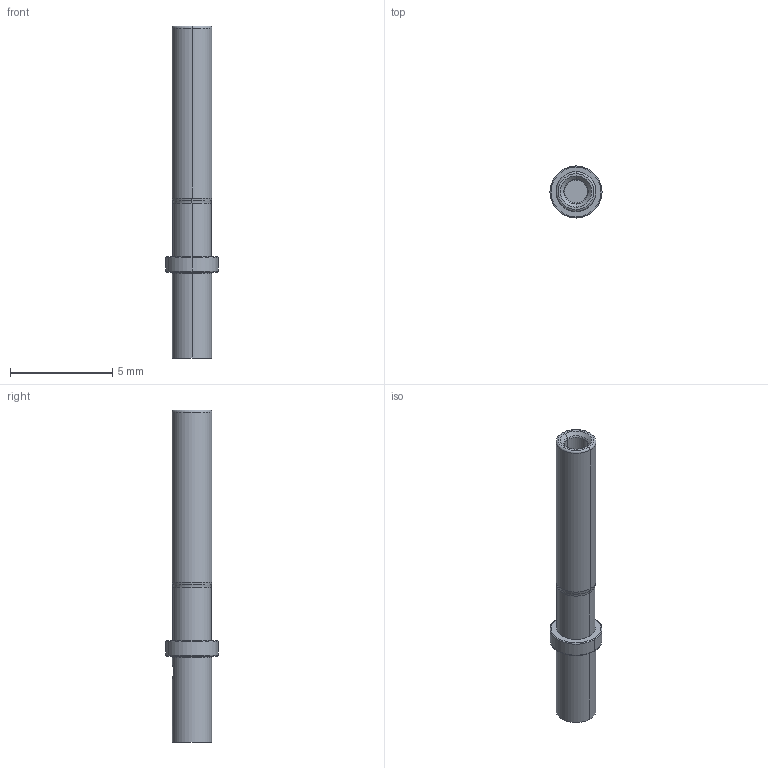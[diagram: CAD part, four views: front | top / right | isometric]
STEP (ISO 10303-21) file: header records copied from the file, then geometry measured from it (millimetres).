
FILE_DESCRIPTION((''),'2;1');
FILE_NAME('C-0462-201-20141','2013-05-09T',('workeradm'),('Tyco Electronics Ltd.'),'PRO/ENGINEER BY PARAMETRIC TECHNOLOGY CORPORATION, 2011490','PRO/ENGINEER BY PARAMETRIC TECHNOLOGY CORPORATION, 2011490','');
FILE_SCHEMA(('AUTOMOTIVE_DESIGN { 1 0 10303 214 1 1 1 1 }'));
Length unit declared in the file: millimetre
Products named in the file (1): C-0462-201-20141
Bounding box: 2.54 x 2.54 x 16.21 mm (x, y, z)
Volume: 46.4 mm3; surface area: 116.7 mm2
Topology: 1 solids, 1 shells, 39 faces, 79 edges, 46 vertices
Faces by surface type: cylinder 15, torus 12, plane 6, cone 4, bspline 2
Entity records: 1451 total; most frequent: CARTESIAN_POINT 278, DIRECTION 201, ORIENTED_EDGE 158, COLOUR_RGB 125, AXIS2_PLACEMENT_3D 91, EDGE_CURVE 79, CIRCLE 54, VERTEX_POINT 46
